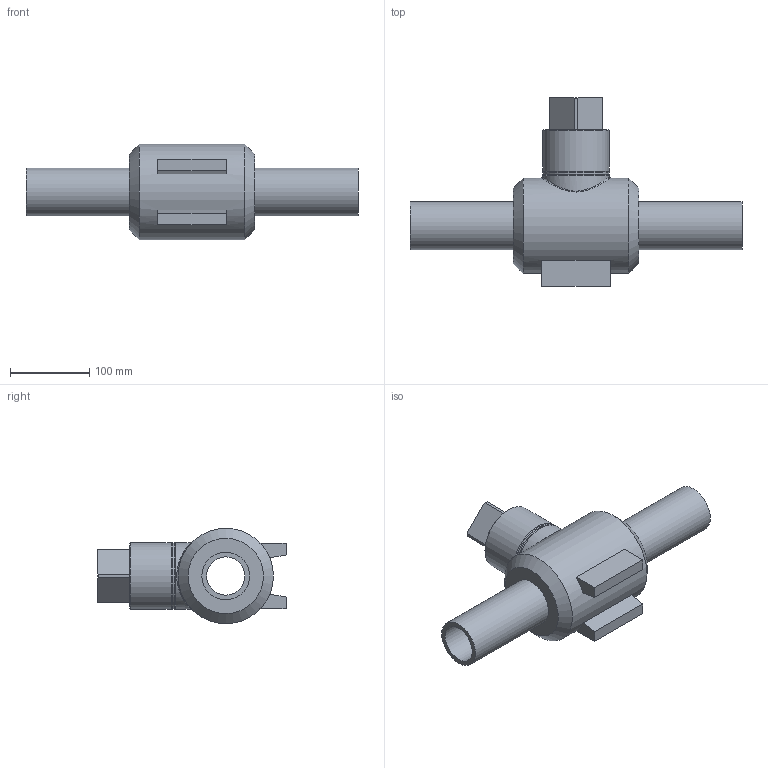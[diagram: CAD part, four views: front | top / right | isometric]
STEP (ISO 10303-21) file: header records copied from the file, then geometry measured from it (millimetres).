
FILE_DESCRIPTION(/* description */ ('PLASSON PE BALL VALVE 2IPS'''''),/* implementation_level */ '2;1');
FILE_NAME(/* name */ 'C:\Dropbox\KIMPROJECTS-Inventor 2019\99-16-3568-Processing Inch\ASTM ElectroFusion 2021\536207\536207020.ipt.stp',/* time_stamp */ '2021-08-30T09:48:07+03:00',/* author */ ('Кирилл'),/* organization */ (''),/* preprocessor_version */ 'ST-DEVELOPER v17.2',/* originating_system */ 'Autodesk Inventor 2019',/* authorisation */ '');
FILE_SCHEMA (('AUTOMOTIVE_DESIGN { 1 0 10303 214 3 1 1 }'));
Length unit declared in the file: inch
Products named in the file (1): 536207020
Bounding box: 418 x 237 x 120 mm (x, y, z)
Volume: 2012719.6 mm3; surface area: 230498.8 mm2
Topology: 1 solids, 1 shells, 43 faces, 122 edges, 86 vertices
Faces by surface type: plane 20, cylinder 12, cone 7, torus 2, bspline 1, sphere 1
Full cylindrical faces by diameter (mm): 48.1 x2, 60.1 x2, 84 x3, 120 x1
Entity records: 1654 total; most frequent: CARTESIAN_POINT 443, DIRECTION 258, ORIENTED_EDGE 242, EDGE_CURVE 121, AXIS2_PLACEMENT_3D 105, VERTEX_POINT 87, CIRCLE 62, EDGE_LOOP 52
